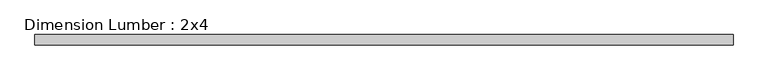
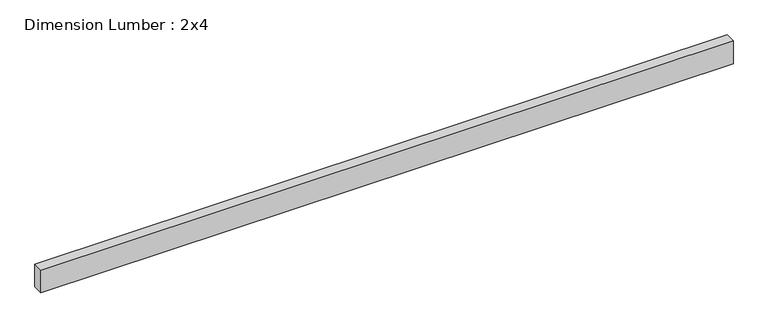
"""IFC4 building model written with IfcOpenShell, lengths in millimetres: beam geometry, Dimension Lumber : 2x4."""

from ifc_helpers import new_model, si_unit, frame, origin, place, context, project, spatial, polyline, outline, extrude, source, transform, mapped, element, save


def dimension_lumber_2x4_c091bb89(model_context):
    return source(origin(), model_context, "Body", "SweptSolid", [
        extrude(outline(polyline([(1276.35, 19.05), (1276.35, -19.05), (-1276.35, -19.05), (-1276.35, 19.05), (1276.35, 19.05)])), frame((0.0, 0.0, -44.45), z_axis=(0.0, 0.0, 1.0), x_axis=(1.0, 0.0, 0.0)), (0.0, 0.0, 1.0), 88.9),
    ])


if __name__ == "__main__":
    model = new_model("IFC4")
    model_context = context("Model", 3, world=origin())
    ifc_project = project(units=[si_unit("LENGTHUNIT", "METRE", prefix="MILLI")], contexts=[model_context])
    site = spatial("IfcSite", under=ifc_project)
    building = spatial("IfcBuilding", under=site)
    placement = place(None, origin())
    dimension_lumber_2x4_shape = dimension_lumber_2x4_c091bb89(model_context)
    element("IfcBeam", 1, ObjectType="Dimension Lumber : 2x4", at=placement, inside=building, context=model_context, shape_type="MappedRepresentation", body=[
        mapped(dimension_lumber_2x4_shape, transform((0.0, 0.0, 0.0), x_axis=(1.0, 0.0, 0.0), y_axis=(0.0, 1.0, 0.0), z_axis=(0.0, 0.0, 1.0))),
    ])
    save(model, "model.ifc")
